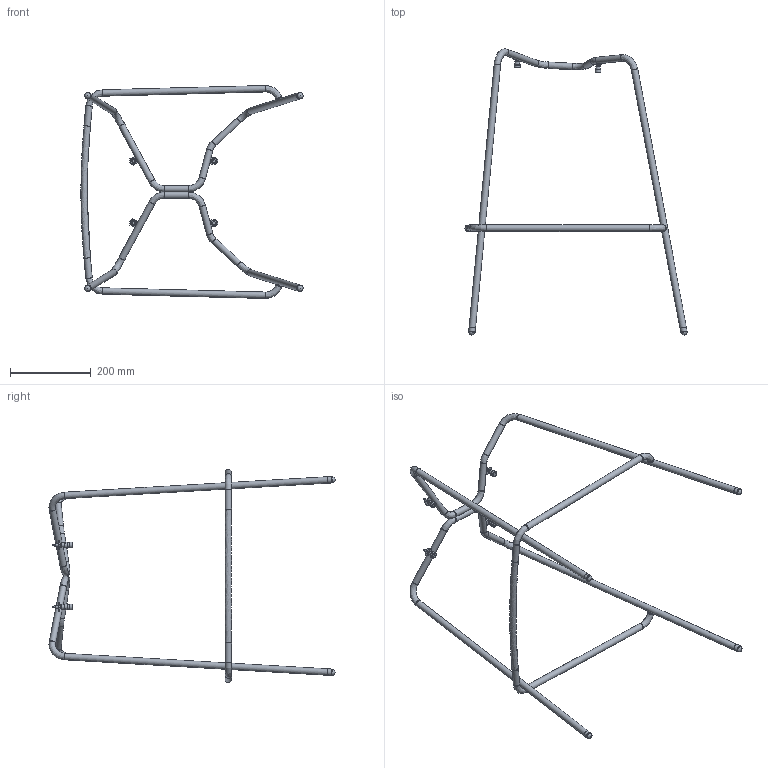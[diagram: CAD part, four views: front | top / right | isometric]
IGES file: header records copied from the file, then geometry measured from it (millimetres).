
Global section: file name: Banco Heir; native system: Autodesk Inventor 2021; preprocessor: unknown; author: auxdiseno; date: 20230127.095811; units: millimetre
Bounding box: 549.03 x 706.9 x 526.22 mm (x, y, z)
Volume: 439407.8 mm3; surface area: 480832.8 mm2
Topology: 19 solids, 19 shells, 280 faces, 768 edges, 542 vertices
Faces by surface type: bspline 280
